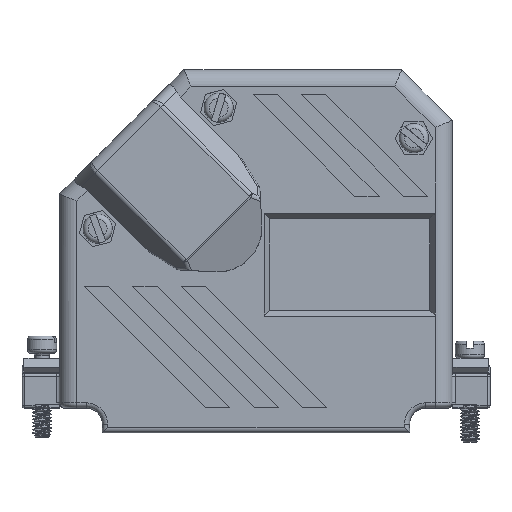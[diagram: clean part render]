
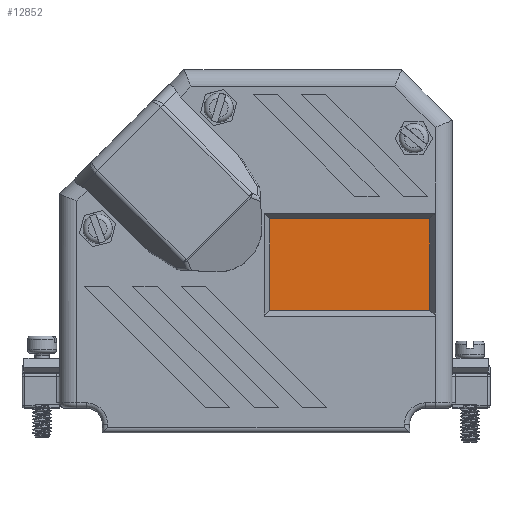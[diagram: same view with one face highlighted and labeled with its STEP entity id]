
A CAD part, top view. The second image highlights one B-rep face of the part: STEP entity #12852.
In plain terms, the highlighted planar face has unit normal (0, 0, 1).
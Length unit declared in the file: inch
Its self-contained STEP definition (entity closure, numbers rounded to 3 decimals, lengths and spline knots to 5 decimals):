
#12750=CARTESIAN_POINT('',(0.079,-0.3465,0.11));
#12751=VERTEX_POINT('',#12750);
#12758=CARTESIAN_POINT('',(0.079,0.1895,0.11));
#12759=VERTEX_POINT('',#12758);
#12760=CARTESIAN_POINT('',(0.079,-0.3465,0.11));
#12761=DIRECTION('',(0.0,1.0,0.0));
#12762=VECTOR('',#12761,0.536);
#12763=LINE('',#12760,#12762);
#12764=EDGE_CURVE('',#12751,#12759,#12763,.T.);
#12783=CARTESIAN_POINT('',(1.015,-0.3465,0.11));
#12784=VERTEX_POINT('',#12783);
#12791=CARTESIAN_POINT('',(1.015,-0.3465,0.11));
#12792=DIRECTION('',(-1.0,0.0,0.0));
#12793=VECTOR('',#12792,0.936);
#12794=LINE('',#12791,#12793);
#12795=EDGE_CURVE('',#12784,#12751,#12794,.T.);
#12806=CARTESIAN_POINT('',(1.015,0.1895,0.11));
#12807=VERTEX_POINT('',#12806);
#12808=CARTESIAN_POINT('',(0.079,0.1895,0.11));
#12809=DIRECTION('',(1.0,0.0,0.0));
#12810=VECTOR('',#12809,0.936);
#12811=LINE('',#12808,#12810);
#12812=EDGE_CURVE('',#12759,#12807,#12811,.T.);
#12830=CARTESIAN_POINT('',(1.015,0.1895,0.11));
#12831=DIRECTION('',(0.0,-1.0,0.0));
#12832=VECTOR('',#12831,0.536);
#12833=LINE('',#12830,#12832);
#12834=EDGE_CURVE('',#12807,#12784,#12833,.T.);
#12841=CARTESIAN_POINT('',(0.547,-0.0785,0.11));
#12842=DIRECTION('',(0.0,0.0,1.0));
#12843=DIRECTION('',(1.0,0.0,0.0));
#12844=AXIS2_PLACEMENT_3D('',#12841,#12842,#12843);
#12845=PLANE('',#12844);
#12846=ORIENTED_EDGE('',*,*,#12764,.F.);
#12847=ORIENTED_EDGE('',*,*,#12795,.F.);
#12848=ORIENTED_EDGE('',*,*,#12834,.F.);
#12849=ORIENTED_EDGE('',*,*,#12812,.F.);
#12850=EDGE_LOOP('',(#12846,#12847,#12848,#12849));
#12851=FACE_OUTER_BOUND('',#12850,.T.);
#12852=ADVANCED_FACE('',(#12851),#12845,.T.);
